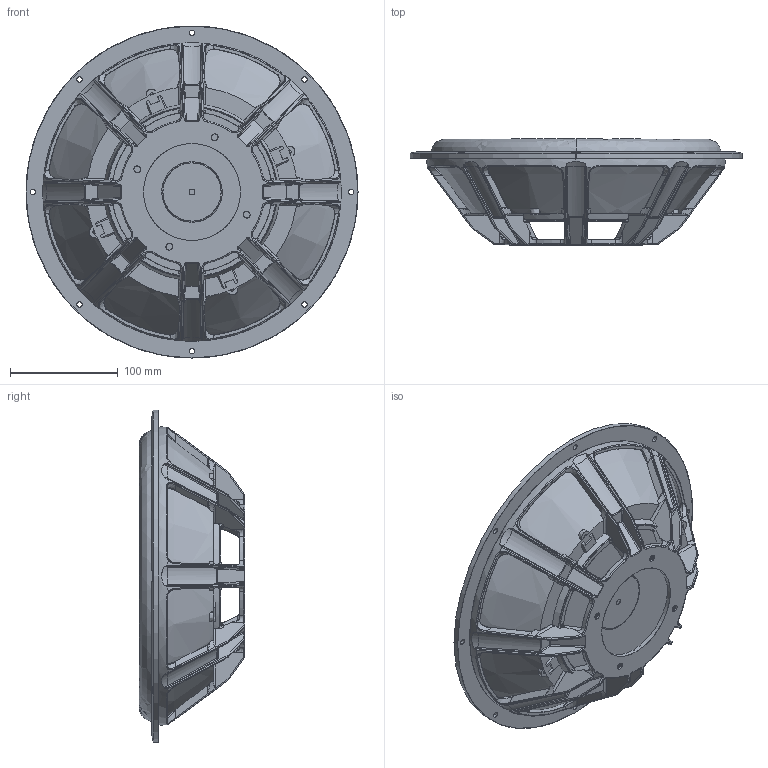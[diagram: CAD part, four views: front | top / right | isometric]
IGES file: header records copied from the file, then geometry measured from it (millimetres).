
Start section: SolidWorks IGES file using analytic representation for surfaces
Global section: file name: W:\TT\WEB 3D enheder\WEB 30W_0-00-00\30W-0-00-0.IGS; native system: SolidWorks 2019; preprocessor: SolidWorks 2019; author: mhn; date: 201022.084142; units: millimetre
Bounding box: 308.25 x 98.25 x 308.25 mm (x, y, z)
Surface area: 277682.4 mm2 (no closed solid volume)
Topology: 0 solids, 0 shells, 1295 faces, 14656 edges, 14639 vertices
Faces by surface type: bspline 738, revolution 557
